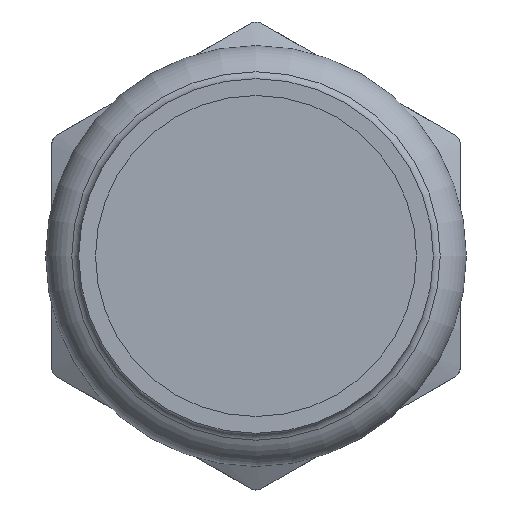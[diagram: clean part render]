
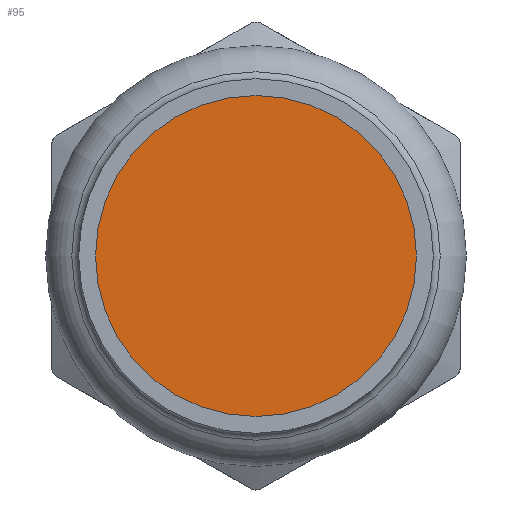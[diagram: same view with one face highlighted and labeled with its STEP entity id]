
A CAD part, front view. The second image highlights one B-rep face of the part: STEP entity #95.
In plain terms, the highlighted planar face has unit normal (0, -1, 0).
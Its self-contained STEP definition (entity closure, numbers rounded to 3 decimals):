
#95=ADVANCED_FACE('',(#424),#426,.T.);
#424=FACE_BOUND('',#425,.T.);
#425=EDGE_LOOP('',(#586));
#426=PLANE('',#427);
#427=AXIS2_PLACEMENT_3D('',#428,#429,#430);
#428=CARTESIAN_POINT('',(0.,7.281,0.));
#429=DIRECTION('',(0.,-1.,0.));
#430=DIRECTION('',(0.,0.,-1.));
#586=ORIENTED_EDGE('',*,*,#664,.T.);
#664=EDGE_CURVE('',#795,#795,#796,.F.);
#795=VERTEX_POINT('',#2004);
#796=CIRCLE('',#2005,14.15);
#2004=CARTESIAN_POINT('',(0.,7.281,14.15));
#2005=AXIS2_PLACEMENT_3D('',#2006,#2007,#2008);
#2006=CARTESIAN_POINT('',(0.,7.281,0.));
#2007=DIRECTION('',(0.,1.,0.));
#2008=DIRECTION('',(0.,0.,1.));
